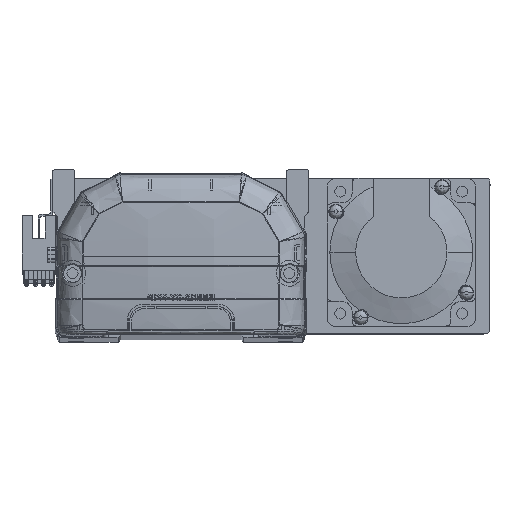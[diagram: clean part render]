
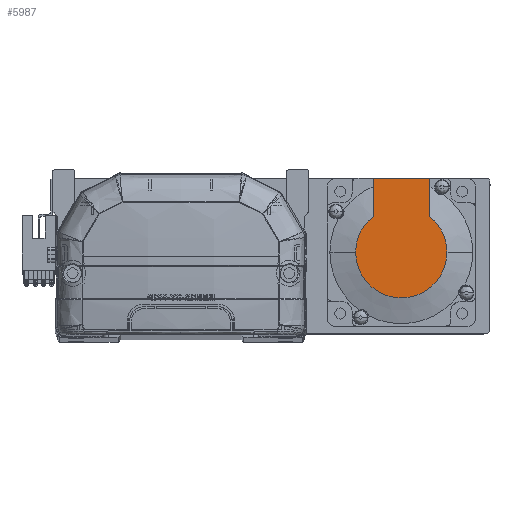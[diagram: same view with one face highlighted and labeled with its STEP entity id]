
A CAD part, top view. The second image highlights one B-rep face of the part: STEP entity #5987.
In plain terms, the highlighted planar face has unit normal (0, 0, 1) as drawn and (-1, 0, 0) by its records, which use the part's own axes.
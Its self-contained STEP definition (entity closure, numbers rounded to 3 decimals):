
#1088 = ORIENTED_EDGE ( 'NONE', *, *, #20575, .F. ) ;
#1359 = AXIS2_PLACEMENT_3D ( 'NONE', #45180, #49884, #54682 ) ;
#2642 = VERTEX_POINT ( 'NONE', #26230 ) ;
#4951 = DIRECTION ( 'NONE',  ( 0., -1., 0. ) ) ;
#5216 = CARTESIAN_POINT ( 'NONE',  ( -79., 30., -11.45 ) ) ;
#5987 = ADVANCED_FACE ( 'NONE', ( #20396 ), #16816, .T. ) ;
#6165 = LINE ( 'NONE', #58633, #49239 ) ;
#8310 = CIRCLE ( 'NONE', #12022, 18.538 ) ;
#8429 = EDGE_CURVE ( 'NONE', #34874, #2642, #8310, .T. ) ;
#9675 = CARTESIAN_POINT ( 'NONE',  ( -79., -9.269, -11.45 ) ) ;
#10528 = ORIENTED_EDGE ( 'NONE', *, *, #29559, .F. ) ;
#10797 = EDGE_CURVE ( 'NONE', #11067, #34874, #52650, .T. ) ;
#10843 = VECTOR ( 'NONE', #60233, 1000. ) ;
#11067 = VERTEX_POINT ( 'NONE', #29101 ) ;
#12022 = AXIS2_PLACEMENT_3D ( 'NONE', #27522, #60531, #22098 ) ;
#16816 = PLANE ( 'NONE',  #50168 ) ;
#17572 = LINE ( 'NONE', #26988, #10843 ) ;
#19143 = CARTESIAN_POINT ( 'NONE',  ( -79., 30., 11.45 ) ) ;
#20396 = FACE_OUTER_BOUND ( 'NONE', #32299, .T. ) ;
#20575 = EDGE_CURVE ( 'NONE', #35996, #25602, #6165, .T. ) ;
#22098 = DIRECTION ( 'NONE',  ( 0., 0., -1. ) ) ;
#22435 = CARTESIAN_POINT ( 'NONE',  ( -79., 0., 0. ) ) ;
#24130 = ORIENTED_EDGE ( 'NONE', *, *, #42579, .T. ) ;
#25602 = VERTEX_POINT ( 'NONE', #35524 ) ;
#26230 = CARTESIAN_POINT ( 'NONE',  ( -79., 0., 18.538 ) ) ;
#26397 = DIRECTION ( 'NONE',  ( -1., 0., 0. ) ) ;
#26988 = CARTESIAN_POINT ( 'NONE',  ( -79., 30., 27. ) ) ;
#27002 = DIRECTION ( 'NONE',  ( 0., 0., 1. ) ) ;
#27233 = DIRECTION ( 'NONE',  ( 0., 0., -1. ) ) ;
#27522 = CARTESIAN_POINT ( 'NONE',  ( -79., 0., 0. ) ) ;
#28112 = CIRCLE ( 'NONE', #1359, 18.538 ) ;
#29101 = CARTESIAN_POINT ( 'NONE',  ( -79., 14.579, -11.45 ) ) ;
#29177 = VECTOR ( 'NONE', #4951, 1000. ) ;
#29559 = EDGE_CURVE ( 'NONE', #43417, #35996, #17572, .T. ) ;
#32013 = DIRECTION ( 'NONE',  ( -1., 0., 0. ) ) ;
#32272 = ORIENTED_EDGE ( 'NONE', *, *, #45491, .T. ) ;
#32299 = EDGE_LOOP ( 'NONE', ( #24130, #45816, #55459, #32272, #1088, #10528 ) ) ;
#32506 = AXIS2_PLACEMENT_3D ( 'NONE', #22435, #32013, #27233 ) ;
#34874 = VERTEX_POINT ( 'NONE', #59130 ) ;
#35524 = CARTESIAN_POINT ( 'NONE',  ( -79., 14.579, 11.45 ) ) ;
#35996 = VERTEX_POINT ( 'NONE', #19143 ) ;
#41010 = LINE ( 'NONE', #9675, #29177 ) ;
#42579 = EDGE_CURVE ( 'NONE', #43417, #11067, #41010, .T. ) ;
#43417 = VERTEX_POINT ( 'NONE', #5216 ) ;
#43889 = DIRECTION ( 'NONE',  ( 0., -1., 0. ) ) ;
#45180 = CARTESIAN_POINT ( 'NONE',  ( -79., 0., 0. ) ) ;
#45491 = EDGE_CURVE ( 'NONE', #2642, #25602, #28112, .T. ) ;
#45816 = ORIENTED_EDGE ( 'NONE', *, *, #10797, .T. ) ;
#49239 = VECTOR ( 'NONE', #43889, 1000. ) ;
#49884 = DIRECTION ( 'NONE',  ( -1., 0., 0. ) ) ;
#50168 = AXIS2_PLACEMENT_3D ( 'NONE', #54807, #26397, #27002 ) ;
#52650 = CIRCLE ( 'NONE', #32506, 18.538 ) ;
#54682 = DIRECTION ( 'NONE',  ( 0., 0., -1. ) ) ;
#54807 = CARTESIAN_POINT ( 'NONE',  ( -79., -9.269, 0. ) ) ;
#55459 = ORIENTED_EDGE ( 'NONE', *, *, #8429, .T. ) ;
#58633 = CARTESIAN_POINT ( 'NONE',  ( -79., 0., 11.45 ) ) ;
#59130 = CARTESIAN_POINT ( 'NONE',  ( -79., 0., -18.538 ) ) ;
#60233 = DIRECTION ( 'NONE',  ( 0., 0., 1. ) ) ;
#60531 = DIRECTION ( 'NONE',  ( -1., 0., 0. ) ) ;
